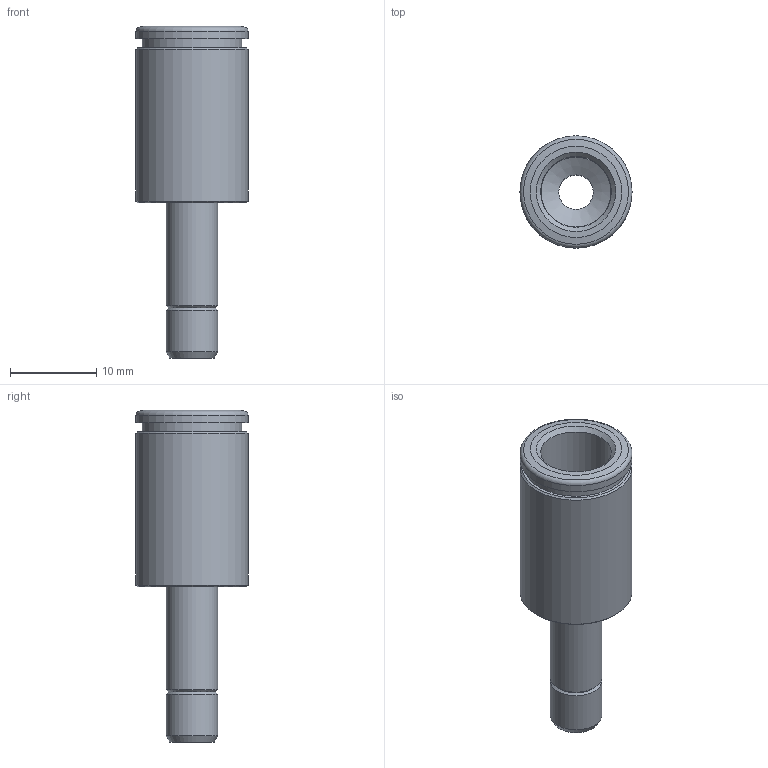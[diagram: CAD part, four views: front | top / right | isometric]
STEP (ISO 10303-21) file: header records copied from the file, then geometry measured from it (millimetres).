
FILE_DESCRIPTION(('Bauteilbeschreibung','HiCAD-Model','HiCAD-STEP-TRANSLATION','Bauteilbeschreibung'),'2;1');
FILE_NAME('B:/ABGLEICH/ZEICHNUNGEN/STEP FÜR INTERNET/STEP/IPSO 08-E/200902_IPSO_08-E_8_6.STP','2012-03-15T17:09:27+00:00',('Konstrukteur'),('Konstrukteur Firma GmbH'),' HiCAD neXt 2008, Step 3.1.1401.2J ','HiCAD neXt 2008','confidential');
FILE_SCHEMA(('AUTOMOTIVE_DESIGN { 1 2 10303 214 0 1 1 1 }'));
Length unit declared in the file: millimetre
Products named in the file (3): A00902_IPSO_08_E_8_6; R200902_N1; DR8_1_NEU
Assembly tree (2 placements, depth 2):
  A00902_IPSO_08_E_8_6
    R200902_N1
    DR8_1_NEU
Bounding box: 13 x 13 x 38.5 mm (x, y, z)
Volume: 1733.2 mm3; surface area: 2725.9 mm2
Topology: 2 solids, 2 shells, 32 faces, 60 edges, 35 vertices
Faces by surface type: cone 13, cylinder 11, plane 7, torus 1
Full cylindrical faces by diameter (mm): 4 x1, 6 x2, 8.1 x1, 8.2 x1, 10.1 x1, 11 x1, 11.5 x1, 11.6 x1, 13 x2
Entity records: 888 total; most frequent: DIRECTION 136, CARTESIAN_POINT 100, AXIS2_PLACEMENT_3D 68, EDGE_LOOP 64, ORIENTED_EDGE 64, COLOUR_RGB 34, PRESENTATION_STYLE_ASSIGNMENT 34, ADVANCED_FACE 32
